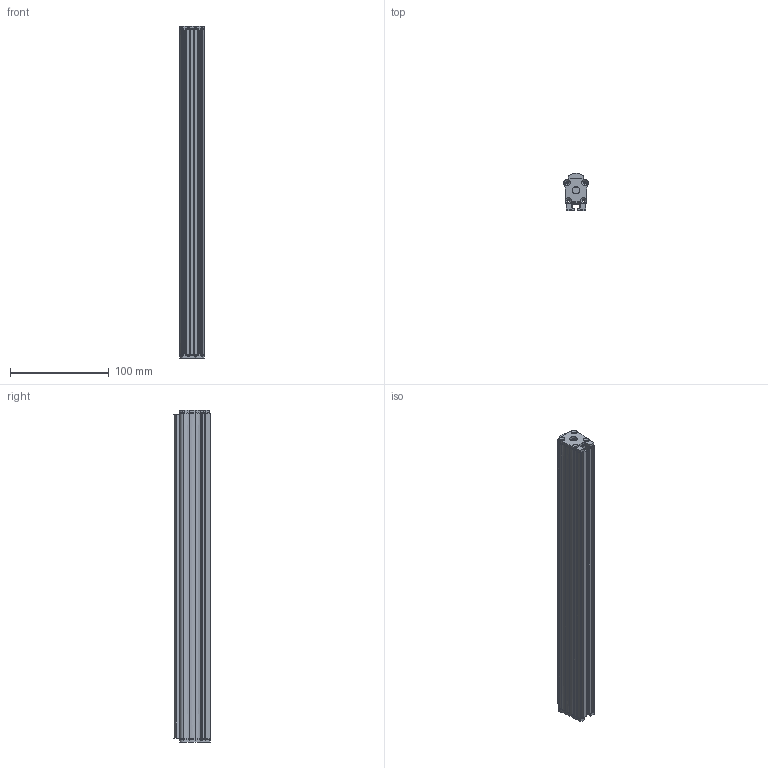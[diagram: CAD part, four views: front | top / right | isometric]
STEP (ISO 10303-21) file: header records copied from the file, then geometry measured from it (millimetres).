
FILE_DESCRIPTION(('STEP AP214'),'1');
FILE_NAME('optique lin prism+lent V7.stp','2021-02-15T14:41:53',('Blanc'),('Phlox'),'Spatial InterOp 3D',' ',' ');
FILE_SCHEMA(('AUTOMOTIVE_DESIGN { 1 0 10303 214 1 1 1 1 }'));
Length unit declared in the file: inch
Products named in the file (1): Pièce_83634808
Bounding box: 24.54 x 37.28 x 335.93 mm (x, y, z)
Volume: 123480.9 mm3; surface area: 102972 mm2
Topology: 6 solids, 6 shells, 380 faces, 1090 edges, 718 vertices
Faces by surface type: cylinder 211, plane 103, bspline 36, cone 16, extrusion 14
Entity records: 25783 total; most frequent: CARTESIAN_POINT 7797, ORIENTED_EDGE 2180, DIRECTION 2086, STYLED_ITEM 1345, PRESENTATION_STYLE_ASSIGNMENT 1345, COLOUR_RGB 1345, EDGE_CURVE 1090, CURVE_STYLE 959
